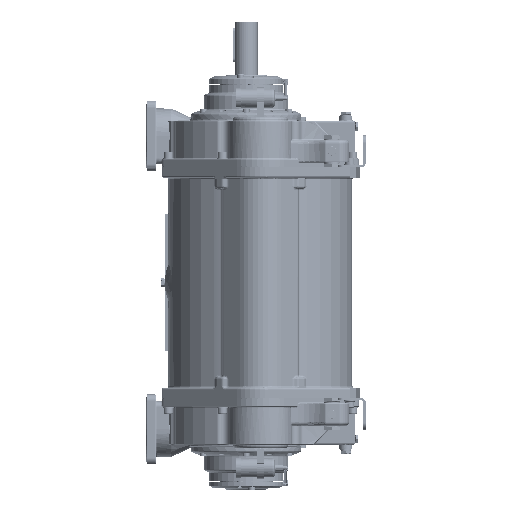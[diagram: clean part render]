
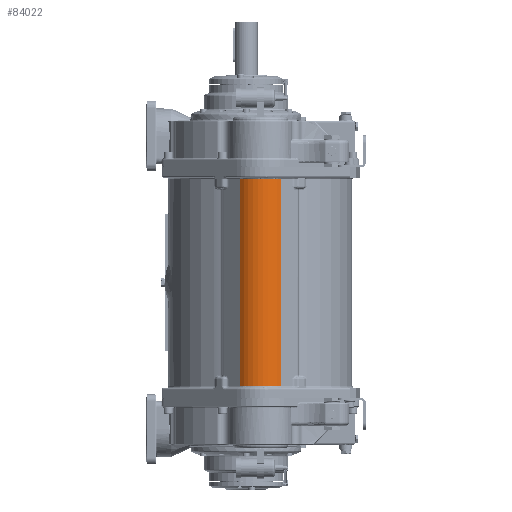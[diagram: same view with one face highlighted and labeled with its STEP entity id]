
A CAD part, left-side view. The second image highlights one B-rep face of the part: STEP entity #84022.
In plain terms, the highlighted cylindrical face has radius 77 mm (diameter 154 mm), a partial arc.
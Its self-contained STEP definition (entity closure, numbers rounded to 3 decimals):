
#6235=LINE('',#132763,#11625);
#6294=LINE('',#135267,#11684);
#11625=VECTOR('',#103190,10.);
#11684=VECTOR('',#103819,10.);
#16120=CYLINDRICAL_SURFACE('',#90739,77.);
#19170=FACE_OUTER_BOUND('',#24213,.T.);
#24213=EDGE_LOOP('',(#60285,#60286,#60287,#60288));
#29243=CIRCLE('',#90232,77.);
#29262=CIRCLE('',#90271,77.);
#33982=VERTEX_POINT('',#131932);
#33983=VERTEX_POINT('',#131936);
#34014=VERTEX_POINT('',#132108);
#34015=VERTEX_POINT('',#132112);
#43156=EDGE_CURVE('',#33983,#33982,#29243,.T.);
#43205=EDGE_CURVE('',#34015,#34014,#29262,.T.);
#43346=EDGE_CURVE('',#34015,#33982,#6235,.T.);
#43655=EDGE_CURVE('',#34014,#33983,#6294,.T.);
#60285=ORIENTED_EDGE('',*,*,#43205,.F.);
#60286=ORIENTED_EDGE('',*,*,#43346,.T.);
#60287=ORIENTED_EDGE('',*,*,#43156,.F.);
#60288=ORIENTED_EDGE('',*,*,#43655,.F.);
#84022=ADVANCED_FACE('',(#19170),#16120,.T.);
#90232=AXIS2_PLACEMENT_3D('',#131938,#102783,#102784);
#90271=AXIS2_PLACEMENT_3D('',#132114,#102879,#102880);
#90739=AXIS2_PLACEMENT_3D('',#135361,#103940,#103941);
#102783=DIRECTION('center_axis',(0.,0.,
-1.));
#102784=DIRECTION('ref_axis',(-1.,0.,0.));
#102879=DIRECTION('center_axis',(0.,0.,
1.));
#102880=DIRECTION('ref_axis',(-1.,0.,0.));
#103190=DIRECTION('',(0.,0.,-1.));
#103819=DIRECTION('',(0.,0.,-1.));
#103940=DIRECTION('center_axis',(0.,0.,
-1.));
#103941=DIRECTION('ref_axis',(-0.707,0.707,0.));
#131932=CARTESIAN_POINT('',(-299.445,54.449,37.));
#131936=CARTESIAN_POINT('',(-299.446,-54.445,37.));
#131938=CARTESIAN_POINT('Origin',(-244.998,0.001,
37.));
#132108=CARTESIAN_POINT('',(-299.446,-54.445,581.));
#132112=CARTESIAN_POINT('',(-299.445,54.449,581.));
#132114=CARTESIAN_POINT('Origin',(-244.998,0.001,
581.));
#132763=CARTESIAN_POINT('',(-299.445,54.449,618.));
#135267=CARTESIAN_POINT('',(-299.446,-54.445,618.));
#135361=CARTESIAN_POINT('Origin',(-244.998,0.001,
618.));
